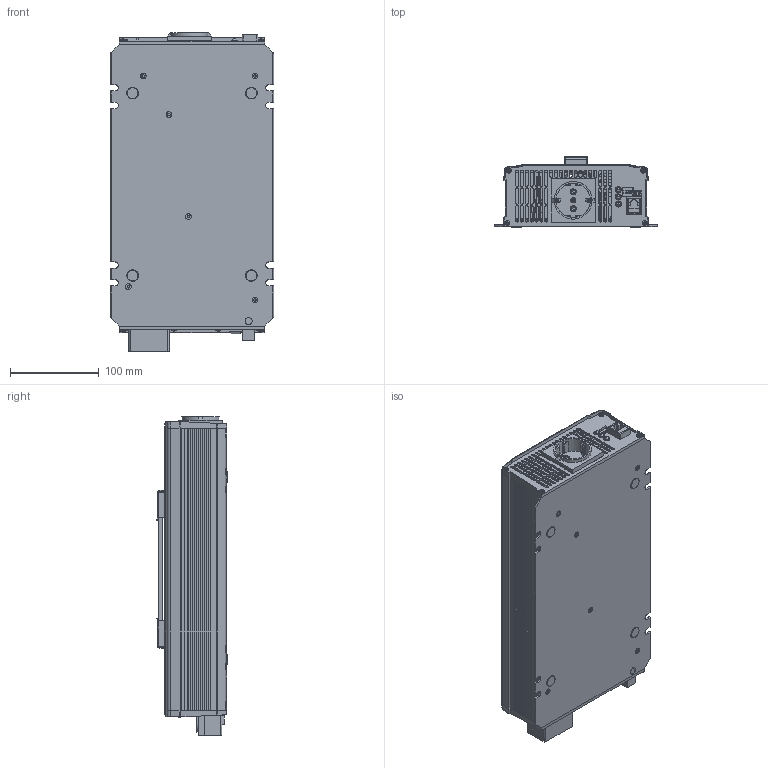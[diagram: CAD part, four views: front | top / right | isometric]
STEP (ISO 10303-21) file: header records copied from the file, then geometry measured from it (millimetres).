
FILE_DESCRIPTION(('Creo Elements/Direct Modeling STEP Export'),'2;1');
FILE_NAME('NTS-1200EU.stp','2021-07-01T11:28:56',(''),(''),'PTC Creo Elements/Direct Modeling STEP processor for AP214 (Solid Model)','PTC Creo Elements/Direct Modeling 19.0A 04-Oct-2014 (C) Parametric Technology GmbH','');
FILE_SCHEMA(('AUTOMOTIVE_DESIGN { 1 0 10303 214 1 1 1 1 }'));
Length unit declared in the file: millimetre
Products named in the file (125): 19-30286-1312__w__.1.1.1.1; 19-30286-1312__w__.1.1.1; 19-30286-1312__w__.1; 19-30286-1312__w__.1.1; 螺丝1; 19-30286-1312__w__.1.2; 19-30286-1312__w__.1.2.1; 19-30286-1312__w__.1.2.1.1; 19-30286-1312__w__.1.2.1.1.1; 螺丝1.1; 螺丝; 1xx3NTU-1200-I; PCBB; PCBA; PCBC; PCB; PCB-D; 9727R_PCB_ASM_ASM_ASM_16_ASM_1_.ASM; STANDARD_ASM_ASM_ASM_16_ASM_1_A.ASM; 拨码开关; E_1_PRT_16_1_1_5.PRT; E_PRT_16_1_1_5.PRT; LED_1_PRT_2_1_1_1_1_1_1_PRT_16_.PRT; P1.PRT; PHONE_JACK_1.PRT; 9727R_PCB.ASM; STANDARD.ASM; 9727R_PHII.ASM; DP1; 小卡装配; MOS15_5X10_1_1_1_1_1_1_1_1_1_2_.PRT.43; P3; MOSTO3P_1_1_PRT_16_1_1_5.PRT.41; MOSTO3P_1_1_PRT_16_1_1_5.PRT.40; T_7.PRT; MOSTO3P_1_1_PRT_16_1_1_5.PRT.42; 22; 33; AL_1_PRT_16_1_1_5.PRT; EE_2_PRT_16_1_1_5.PRT.22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
Assembly tree (145 placements, depth 8):
  NTU-1200
    1xx3NTS-1200UK-O
    E-08.欧插
      E-08_1.ASM
        E08B_SERIES1.PRT
        E08-4.PRT  x3
        E08_3.PRT  x2
        E08_001_SERIES_ASM.ASM
          E08_001_3.PRT
          E08_001_4.PRT
        E08-6.PRT
        E08_SERIES1.PRT
        E08-5.PRT
    装配1
      1GG
        YS031W-074.1
        YS031W-074
        HS-SZ901
        CU-177  x2
        HS-659
          HS3_1_ASM_5.ASM
            HS3_5.PRT
            PIN_1_5.PRT
        HS-660
        33_PRT_16_1_1_5.PRT  x2
        HS-272B
      1HH
        1HH2NTU-1200A.1
        130x65
        THERMAL_PAD-2_5.PRT
        THERMAL_PAD-1_8.PRT
        SI_PRT_16_1_1_5.PRT
        SILICONE_PAD_5.PRT
        MYLAR_PRT_16_1_1_5.PRT
        MYLAR-2_5.PRT
        1HH2NTU-120019
      CASE
        PAD
          FOOT_PAD_7_1.PRT.30
          FOOT_PAD_7_1.PRT.31
          FOOT_PAD_7_1.PRT
          FOOT_PAD_7_1.PRT.29
        固纬把手
          174
          guwei1
          guwei1.1
        CASE上盖
        CASE下盖
          M3-7L_1_PRT_16_1_1_5.PRT.1
          M3-7L_1_PRT_16_1_1_5.PRT
          M3-7L_1_PRT_16_1_1_5.PRT.6
          M3-7L_1_PRT_16_1_1_5.PRT.5
          77_PRT_16_1_1_5.PRT
          M3-7L_1_PRT_16_1_1_5.PRT.7
          M3-7L_1_PRT_16_1_1_5.PRT.9
          CASE
      装配
        A1_1_ASM_ASM_ASM_16_ASM_1_ASM_1.ASM
          A_ASM_PRT_16_1_1_5.PRT
          ALL_ASM_ASM_ASM_16_ASM_1_ASM_1_.ASM
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Bounding box: 184 x 79.45 x 359.66 mm (x, y, z)
Volume: 954957.2 mm3; surface area: 885388.7 mm2
Topology: 103 solids, 106 shells, 4916 faces, 12925 edges, 8284 vertices
Faces by surface type: plane 2820, cylinder 1313, cone 391, bspline 153, torus 131, sphere 106, extrusion 2
Entity records: 149882 total; most frequent: CARTESIAN_POINT 35713, ORIENTED_EDGE 21715, DIRECTION 19997, EDGE_CURVE 10846, VECTOR 7067, LINE 7065, VERTEX_POINT 7020, AXIS2_PLACEMENT_3D 6465
